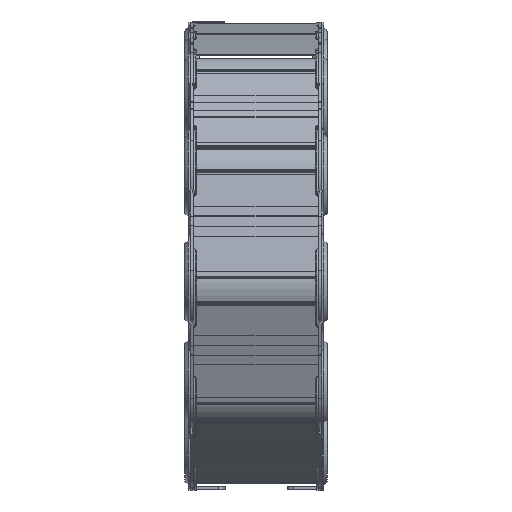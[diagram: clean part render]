
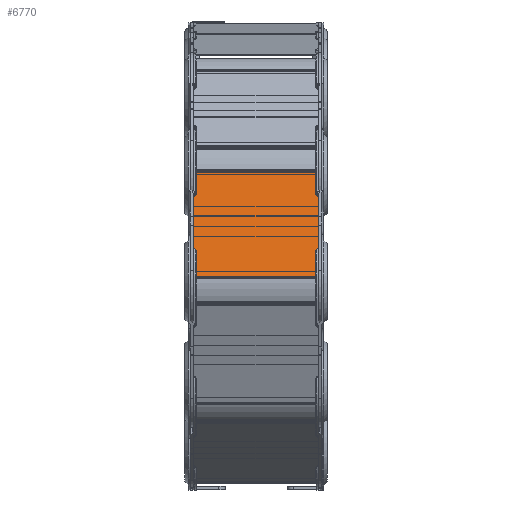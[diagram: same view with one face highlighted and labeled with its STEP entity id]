
A CAD part, front view. The second image highlights one B-rep face of the part: STEP entity #6770.
In plain terms, the highlighted planar face has unit normal (0, -0.979, 0.204) as drawn and (0, 1, 0) by its records, which use the part's own axes.
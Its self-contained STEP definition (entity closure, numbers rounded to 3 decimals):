
#6196=CARTESIAN_POINT('',(160.598,148.689,196.5));
#6197=VERTEX_POINT('',#6196);
#6300=CARTESIAN_POINT('',(194.128,148.689,196.5));
#6301=VERTEX_POINT('',#6300);
#6308=CARTESIAN_POINT('',(160.598,148.689,196.5));
#6309=DIRECTION('',(1.0,0.0,0.0));
#6310=VECTOR('',#6309,33.53);
#6311=LINE('',#6308,#6310);
#6312=EDGE_CURVE('',#6197,#6301,#6311,.T.);
#6352=CARTESIAN_POINT('',(199.582,148.689,200.0));
#6353=VERTEX_POINT('',#6352);
#6360=CARTESIAN_POINT('',(194.128,148.689,202.5));
#6361=DIRECTION('',(0.0,-1.0,0.0));
#6362=DIRECTION('',(0.0,0.0,-1.0));
#6363=AXIS2_PLACEMENT_3D('',#6360,#6361,#6362);
#6364=CIRCLE('',#6363,6.);
#6365=EDGE_CURVE('',#6301,#6353,#6364,.T.);
#6408=CARTESIAN_POINT('',(289.628,148.689,196.5));
#6409=VERTEX_POINT('',#6408);
#6416=CARTESIAN_POINT('',(284.173,148.689,200.0));
#6417=VERTEX_POINT('',#6416);
#6418=CARTESIAN_POINT('',(289.628,148.689,202.5));
#6419=DIRECTION('',(0.0,-1.0,0.0));
#6420=DIRECTION('',(-1.0,0.0,0.0));
#6421=AXIS2_PLACEMENT_3D('',#6418,#6419,#6420);
#6422=CIRCLE('',#6421,6.);
#6423=EDGE_CURVE('',#6417,#6409,#6422,.T.);
#6473=CARTESIAN_POINT('',(331.64,148.689,196.5));
#6474=VERTEX_POINT('',#6473);
#6482=CARTESIAN_POINT('',(289.628,148.689,196.5));
#6483=DIRECTION('',(1.0,0.0,0.0));
#6484=VECTOR('',#6483,42.012);
#6485=LINE('',#6482,#6484);
#6486=EDGE_CURVE('',#6409,#6474,#6485,.T.);
#6628=CARTESIAN_POINT('',(160.598,148.689,3.5));
#6629=VERTEX_POINT('',#6628);
#6630=CARTESIAN_POINT('',(160.598,148.689,3.5));
#6631=DIRECTION('',(0.0,0.0,1.0));
#6632=VECTOR('',#6631,193.);
#6633=LINE('',#6630,#6632);
#6634=EDGE_CURVE('',#6629,#6197,#6633,.T.);
#6704=CARTESIAN_POINT('',(239.64,148.689,0.0));
#6705=DIRECTION('',(0.0,1.0,0.0));
#6706=DIRECTION('',(0.0,0.0,1.0));
#6707=AXIS2_PLACEMENT_3D('',#6704,#6705,#6706);
#6708=PLANE('',#6707);
#6709=ORIENTED_EDGE('',*,*,#6312,.T.);
#6710=ORIENTED_EDGE('',*,*,#6365,.T.);
#6711=CARTESIAN_POINT('',(199.582,148.689,200.0));
#6712=DIRECTION('',(1.0,0.0,0.0));
#6713=VECTOR('',#6712,84.591);
#6714=LINE('',#6711,#6713);
#6715=EDGE_CURVE('',#6353,#6417,#6714,.T.);
#6716=ORIENTED_EDGE('',*,*,#6715,.T.);
#6717=ORIENTED_EDGE('',*,*,#6423,.T.);
#6718=ORIENTED_EDGE('',*,*,#6486,.T.);
#6719=CARTESIAN_POINT('',(331.64,148.689,3.5));
#6720=VERTEX_POINT('',#6719);
#6721=CARTESIAN_POINT('',(331.64,148.689,3.5));
#6722=DIRECTION('',(0.0,0.0,1.0));
#6723=VECTOR('',#6722,193.);
#6724=LINE('',#6721,#6723);
#6725=EDGE_CURVE('',#6720,#6474,#6724,.T.);
#6726=ORIENTED_EDGE('',*,*,#6725,.F.);
#6727=CARTESIAN_POINT('',(289.628,148.689,3.5));
#6728=VERTEX_POINT('',#6727);
#6729=CARTESIAN_POINT('',(331.64,148.689,3.5));
#6730=DIRECTION('',(-1.0,0.0,0.0));
#6731=VECTOR('',#6730,42.012);
#6732=LINE('',#6729,#6731);
#6733=EDGE_CURVE('',#6720,#6728,#6732,.T.);
#6734=ORIENTED_EDGE('',*,*,#6733,.T.);
#6735=CARTESIAN_POINT('',(284.173,148.689,0.0));
#6736=VERTEX_POINT('',#6735);
#6737=CARTESIAN_POINT('',(289.628,148.689,-2.5));
#6738=DIRECTION('',(0.0,-1.0,0.0));
#6739=DIRECTION('',(-1.0,0.0,0.0));
#6740=AXIS2_PLACEMENT_3D('',#6737,#6738,#6739);
#6741=CIRCLE('',#6740,6.);
#6742=EDGE_CURVE('',#6728,#6736,#6741,.T.);
#6743=ORIENTED_EDGE('',*,*,#6742,.T.);
#6744=CARTESIAN_POINT('',(199.582,148.689,0.0));
#6745=VERTEX_POINT('',#6744);
#6746=CARTESIAN_POINT('',(199.582,148.689,0.0));
#6747=DIRECTION('',(1.0,0.0,0.0));
#6748=VECTOR('',#6747,84.591);
#6749=LINE('',#6746,#6748);
#6750=EDGE_CURVE('',#6745,#6736,#6749,.T.);
#6751=ORIENTED_EDGE('',*,*,#6750,.F.);
#6752=CARTESIAN_POINT('',(194.128,148.689,3.5));
#6753=VERTEX_POINT('',#6752);
#6754=CARTESIAN_POINT('',(194.128,148.689,-2.5));
#6755=DIRECTION('',(0.0,-1.0,0.0));
#6756=DIRECTION('',(0.0,0.0,1.0));
#6757=AXIS2_PLACEMENT_3D('',#6754,#6755,#6756);
#6758=CIRCLE('',#6757,6.);
#6759=EDGE_CURVE('',#6745,#6753,#6758,.T.);
#6760=ORIENTED_EDGE('',*,*,#6759,.T.);
#6761=CARTESIAN_POINT('',(194.128,148.689,3.5));
#6762=DIRECTION('',(-1.0,0.0,0.0));
#6763=VECTOR('',#6762,33.53);
#6764=LINE('',#6761,#6763);
#6765=EDGE_CURVE('',#6753,#6629,#6764,.T.);
#6766=ORIENTED_EDGE('',*,*,#6765,.T.);
#6767=ORIENTED_EDGE('',*,*,#6634,.T.);
#6768=EDGE_LOOP('',(#6709,#6710,#6716,#6717,#6718,#6726,#6734,#6743,#6751,#6760,#6766,#6767));
#6769=FACE_OUTER_BOUND('',#6768,.T.);
#6770=ADVANCED_FACE('',(#6769),#6708,.T.);
